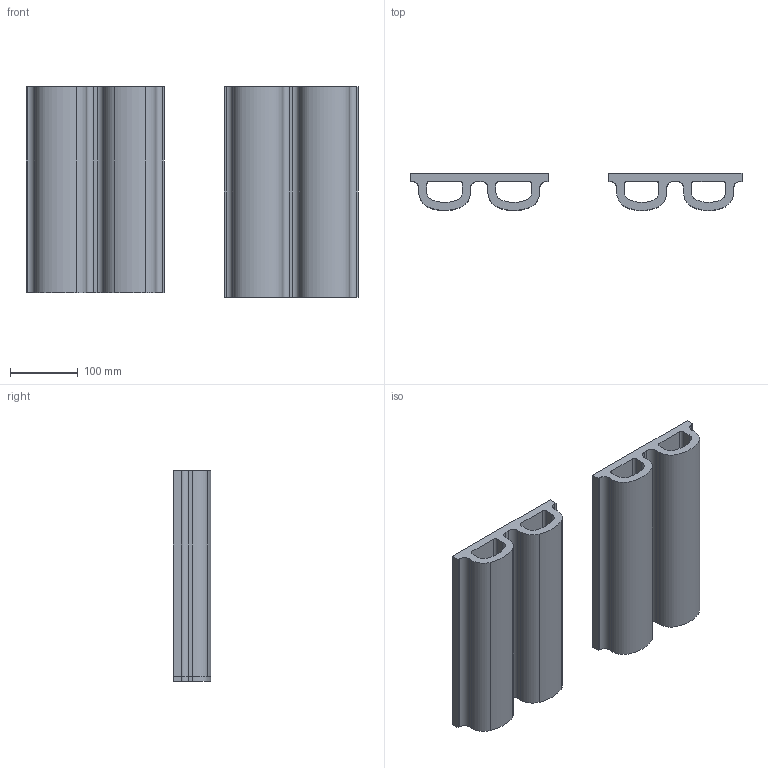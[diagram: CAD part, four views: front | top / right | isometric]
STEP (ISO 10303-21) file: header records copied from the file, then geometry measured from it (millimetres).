
FILE_DESCRIPTION(/* description */ (''),/* implementation_level */ '2;1');
FILE_NAME(/* name */ 'MONTGO_FERRES',/* time_stamp */ '2023-11-02T16:11:20+01:00',/* author */ (''),/* organization */ (''),/* preprocessor_version */ 'ST-DEVELOPER v16.5',/* originating_system */ 'Rhino 7.15',/* authorisation */ '');
FILE_SCHEMA (('AUTOMOTIVE_DESIGN'));
Length unit declared in the file: millimetre
Products named in the file (1): Document
Bounding box: 491.66 x 55.23 x 312 mm (x, y, z)
Volume: 3270578.2 mm3; surface area: 531665.4 mm2
Topology: 2 solids, 2 shells, 68 faces, 192 edges, 128 vertices
Faces by surface type: plane 36, cylinder 18, bspline 14
Entity records: 2143 total; most frequent: CARTESIAN_POINT 1012, ORIENTED_EDGE 384, EDGE_CURVE 192, VERTEX_POINT 128, EDGE_LOOP 76, ADVANCED_FACE 68, FACE_OUTER_BOUND 68, DIRECTION 58
